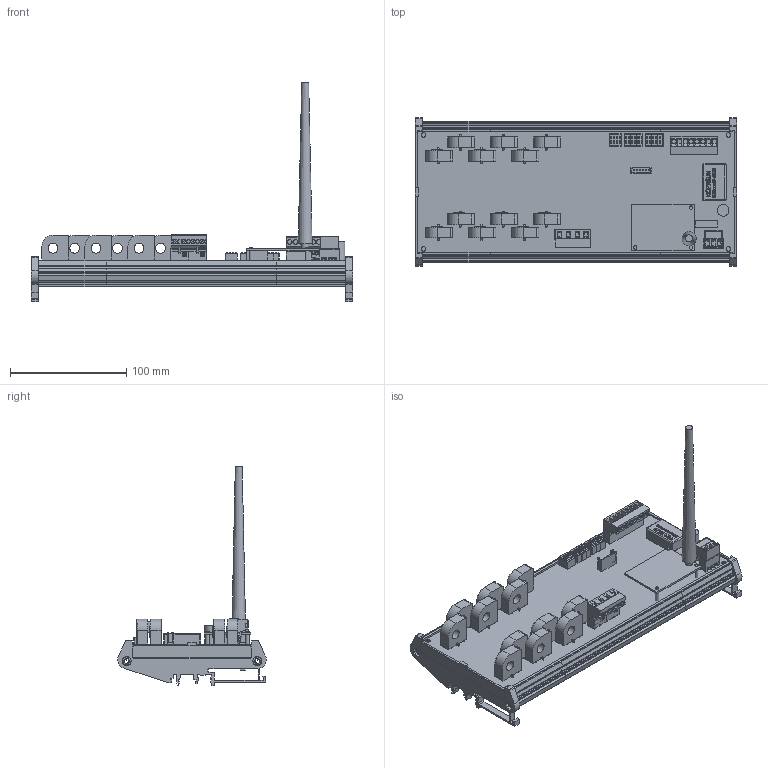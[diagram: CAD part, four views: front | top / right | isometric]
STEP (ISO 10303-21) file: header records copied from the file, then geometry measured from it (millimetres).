
FILE_DESCRIPTION(('FreeCAD Model'),'2;1');
FILE_NAME('C:/3D Files/Stringhe/ST0HS/ST0HS12xx WR/ST0HS12xx WR.step', '2023-01-13T18:56:43',('Author'),(''), 'Open CASCADE STEP processor 7.3','FreeCAD','Unknown');
FILE_SCHEMA(('AUTOMOTIVE_DESIGN { 1 0 10303 214 1 1 1 1 }'));
Length unit declared in the file: millimetre
Products named in the file (37): ST0HS12xx_WR; AmpModu_6P_M; DipSwitch4; IB2405LS-1W; WRB2403ZP-6WR003; ELNA_470_uF_35_V; Mstb_03P_F; Mstb_03Pc_M; SH04-7,62; PV02-7,62-V-Pa; PV02-7,62-V-Pb; Mstb_8P_F; Mstb_8Pc_M; CHK-LSP5S2L-BP-CH_05; CHK-LSP5S2L-BP-CH_06; CHK-LSP5S2L-BP-CH_07; CHK-LSP5S2L-BP-CH_08; CHK-LSP5S2L-BP-CH_09; CHK-LSP5S2L-BP-CH_10; CHK-LSP5S2L-BP-CH_11; CHK-LSP5S2L-BP-CH_12; CHK-LSP5S2L-BP-CH_01; CHK-LSP5S2L-BP-CH_02; CHK-LSP5S2L-BP-CH_03; CHK-LSP5S2L-BP-CH_04; DipSwitch005; DipSwitch006; DipSwitch007; DipSwitch008; Spacer-001; Spacer-002; Spacer-003; Antenna; Base_Antenna; E108_Module; Stampato_272_x_108; Profilo_276x128
Assembly tree (36 placements, depth 2):
  ST0HS12xx_WR
    AmpModu_6P_M
    DipSwitch4
    IB2405LS-1W
    WRB2403ZP-6WR003
    ELNA_470_uF_35_V
    Mstb_03P_F
    Mstb_03Pc_M
    SH04-7,62
    PV02-7,62-V-Pa
    PV02-7,62-V-Pb
    Mstb_8P_F
    Mstb_8Pc_M
    CHK-LSP5S2L-BP-CH_05
    CHK-LSP5S2L-BP-CH_06
    CHK-LSP5S2L-BP-CH_07
    CHK-LSP5S2L-BP-CH_08
    CHK-LSP5S2L-BP-CH_09
    CHK-LSP5S2L-BP-CH_10
    CHK-LSP5S2L-BP-CH_11
    CHK-LSP5S2L-BP-CH_12
    CHK-LSP5S2L-BP-CH_01
    CHK-LSP5S2L-BP-CH_02
    CHK-LSP5S2L-BP-CH_03
    CHK-LSP5S2L-BP-CH_04
    DipSwitch005
    DipSwitch006
    DipSwitch007
    DipSwitch008
    Spacer-001
    Spacer-002
    Spacer-003
    Antenna
    Base_Antenna
    E108_Module
    Stampato_272_x_108
    Profilo_276x128
Bounding box: 276 x 127.59 x 188.79 mm (x, y, z)
Volume: 295740.5 mm3; surface area: 328473.1 mm2
Topology: 51 solids, 90 shells, 4837 faces, 18526 edges, 29724 vertices
Faces by surface type: plane 3544, cylinder 796, bspline 284, torus 140, cone 42, sphere 28, extrusion 3
Full cylindrical faces by diameter (mm): 0.5 x4, 0.75 x52, 1 x10, 1.5 x8, 1.6 x7, 3.1 x3, 3.8 x4, 4 x19, 4.3 x4, 6 x1, 7.9 x4, 9.202 x4, 10 x1
Entity records: 402914 total; most frequent: CARTESIAN_POINT 105883, DIRECTION 49618, VECTOR 34146, LINE 34143, ORIENTED_EDGE 25797, PCURVE 25797, DEFINITIONAL_REPRESENTATION 25797, EDGE_CURVE 13261
